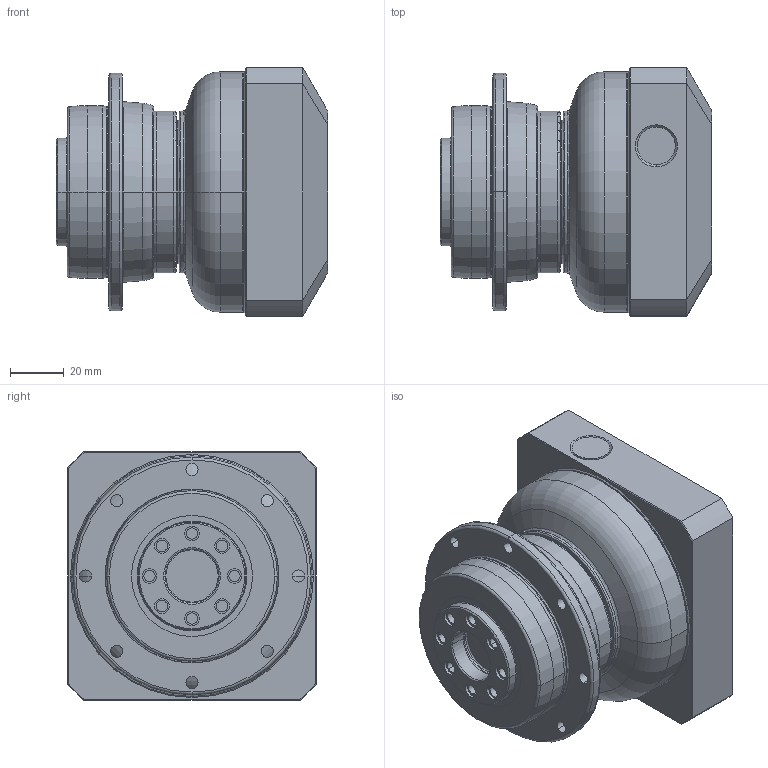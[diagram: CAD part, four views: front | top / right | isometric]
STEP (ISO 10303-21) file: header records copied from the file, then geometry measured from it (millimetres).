
FILE_DESCRIPTION((''),'2;1');
FILE_NAME('PD064_1ST_19-P0411400101_ASM','2016-06-02T',('d01943'),(''),'PRO/ENGINEER BY PARAMETRIC TECHNOLOGY CORPORATION, 2008410','PRO/ENGINEER BY PARAMETRIC TECHNOLOGY CORPORATION, 2008410','');
FILE_SCHEMA(('CONFIG_CONTROL_DESIGN'));
Length unit declared in the file: millimetre
Products named in the file (8): P1355200001; P0367200001; P0274200001; P1324200301; P0411400101; P0503400008; P0941203001; PD064_1ST_19-P0411400101_ASM
Assembly tree (7 placements, depth 2):
  PD064_1ST_19-P0411400101_ASM
    P1355200001
    P0367200001
    P0274200001
    P1324200301
    P0411400101
    P0503400008
    P0941203001
Bounding box: 100.5 x 92 x 92 mm (x, y, z)
Volume: 462152.8 mm3; surface area: 101350.1 mm2
Topology: 7 solids, 7 shells, 383 faces, 881 edges, 520 vertices
Faces by surface type: cylinder 134, cone 96, torus 74, plane 65, bspline 14
Entity records: 15563 total; most frequent: CARTESIAN_POINT 6637, DIRECTION 1998, ORIENTED_EDGE 1714, AXIS2_PLACEMENT_3D 858, EDGE_CURVE 857, VERTEX_POINT 520, CIRCLE 474, EDGE_LOOP 457
